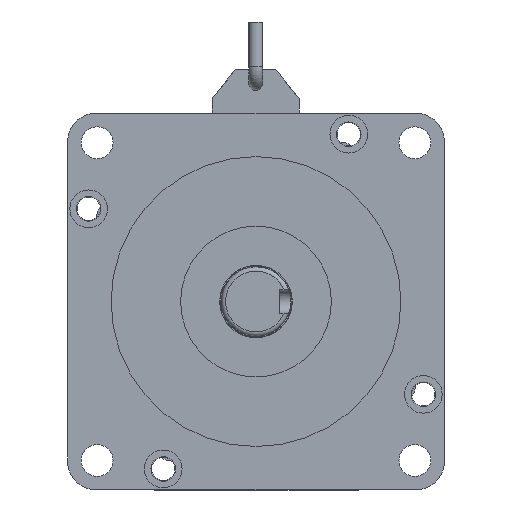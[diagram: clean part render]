
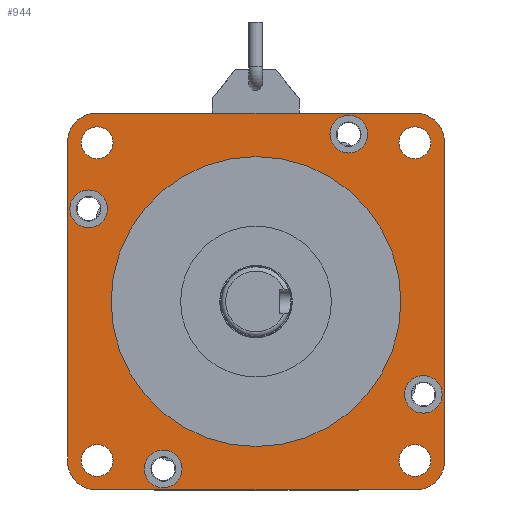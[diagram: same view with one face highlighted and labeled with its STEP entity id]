
A CAD part, front view. The second image highlights one B-rep face of the part: STEP entity #944.
In plain terms, the highlighted planar face has unit normal (0, -1, 0).
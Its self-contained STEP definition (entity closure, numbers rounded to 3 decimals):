
#944=ADVANCED_FACE('',(#1545,#1546,#1547,#1548,#1549,#1550,#1551,#1552,
#1553,#1554),#1260,.T.);
#1260=PLANE('',#8769);
#1545=FACE_BOUND('',#2155,.T.);
#1546=FACE_BOUND('',#2156,.T.);
#1547=FACE_BOUND('',#2157,.T.);
#1548=FACE_BOUND('',#2158,.T.);
#1549=FACE_BOUND('',#2159,.T.);
#1550=FACE_BOUND('',#2160,.T.);
#1551=FACE_BOUND('',#2161,.T.);
#1552=FACE_BOUND('',#2162,.T.);
#1553=FACE_BOUND('',#2163,.T.);
#1554=FACE_BOUND('',#2164,.T.);
#2155=EDGE_LOOP('',(#4236));
#2156=EDGE_LOOP('',(#4237));
#2157=EDGE_LOOP('',(#4238));
#2158=EDGE_LOOP('',(#4239));
#2159=EDGE_LOOP('',(#4240));
#2160=EDGE_LOOP('',(#4241));
#2161=EDGE_LOOP('',(#4242));
#2162=EDGE_LOOP('',(#4243));
#2163=EDGE_LOOP('',(#4244));
#2164=EDGE_LOOP('',(#4245,#4246,#4247,#4248,#4249,#4250,#4251,#4252));
#4236=ORIENTED_EDGE('',*,*,#6183,.T.);
#4237=ORIENTED_EDGE('',*,*,#6181,.T.);
#4238=ORIENTED_EDGE('',*,*,#6179,.T.);
#4239=ORIENTED_EDGE('',*,*,#6177,.T.);
#4240=ORIENTED_EDGE('',*,*,#6168,.T.);
#4241=ORIENTED_EDGE('',*,*,#6166,.T.);
#4242=ORIENTED_EDGE('',*,*,#6164,.T.);
#4243=ORIENTED_EDGE('',*,*,#6170,.T.);
#4244=ORIENTED_EDGE('',*,*,#6186,.T.);
#4245=ORIENTED_EDGE('',*,*,#6148,.F.);
#4246=ORIENTED_EDGE('',*,*,#6157,.T.);
#4247=ORIENTED_EDGE('',*,*,#6155,.F.);
#4248=ORIENTED_EDGE('',*,*,#6163,.T.);
#4249=ORIENTED_EDGE('',*,*,#6134,.F.);
#4250=ORIENTED_EDGE('',*,*,#6161,.T.);
#4251=ORIENTED_EDGE('',*,*,#6141,.F.);
#4252=ORIENTED_EDGE('',*,*,#6159,.T.);
#5072=VERTEX_POINT('',#13294);
#5077=VERTEX_POINT('',#13304);
#5078=VERTEX_POINT('',#13308);
#5083=VERTEX_POINT('',#13318);
#5084=VERTEX_POINT('',#13322);
#5089=VERTEX_POINT('',#13332);
#5090=VERTEX_POINT('',#13336);
#5095=VERTEX_POINT('',#13346);
#5096=VERTEX_POINT('',#13362);
#5098=VERTEX_POINT('',#13367);
#5100=VERTEX_POINT('',#13372);
#5102=VERTEX_POINT('',#13377);
#5109=VERTEX_POINT('',#13396);
#5111=VERTEX_POINT('',#13401);
#5113=VERTEX_POINT('',#13406);
#5115=VERTEX_POINT('',#13411);
#5118=VERTEX_POINT('',#13420);
#6134=EDGE_CURVE('',#5077,#5072,#7279,.T.);
#6141=EDGE_CURVE('',#5083,#5078,#7286,.T.);
#6148=EDGE_CURVE('',#5089,#5084,#7293,.T.);
#6155=EDGE_CURVE('',#5095,#5090,#7300,.T.);
#6157=EDGE_CURVE('',#5089,#5090,#6391,.T.);
#6159=EDGE_CURVE('',#5083,#5084,#6393,.T.);
#6161=EDGE_CURVE('',#5077,#5078,#6395,.T.);
#6163=EDGE_CURVE('',#5095,#5072,#6397,.T.);
#6164=EDGE_CURVE('',#5096,#5096,#6398,.T.);
#6166=EDGE_CURVE('',#5098,#5098,#6400,.T.);
#6168=EDGE_CURVE('',#5100,#5100,#6402,.T.);
#6170=EDGE_CURVE('',#5102,#5102,#6404,.T.);
#6177=EDGE_CURVE('',#5109,#5109,#6411,.T.);
#6179=EDGE_CURVE('',#5111,#5111,#6413,.T.);
#6181=EDGE_CURVE('',#5113,#5113,#6415,.T.);
#6183=EDGE_CURVE('',#5115,#5115,#6417,.T.);
#6186=EDGE_CURVE('',#5118,#5118,#6420,.T.);
#6391=CIRCLE('',#8720,10.);
#6393=CIRCLE('',#8723,10.);
#6395=CIRCLE('',#8726,10.);
#6397=CIRCLE('',#8729,10.);
#6398=CIRCLE('',#8731,5.5);
#6400=CIRCLE('',#8734,5.5);
#6402=CIRCLE('',#8737,5.5);
#6404=CIRCLE('',#8740,5.5);
#6411=CIRCLE('',#8752,6.5);
#6413=CIRCLE('',#8755,6.5);
#6415=CIRCLE('',#8758,6.5);
#6417=CIRCLE('',#8761,6.5);
#6420=CIRCLE('',#8767,50.);
#7279=LINE('',#13305,#8142);
#7286=LINE('',#13319,#8149);
#7293=LINE('',#13333,#8156);
#7300=LINE('',#13347,#8163);
#8142=VECTOR('',#10690,1.);
#8149=VECTOR('',#10699,1.);
#8156=VECTOR('',#10708,1.);
#8163=VECTOR('',#10717,1.);
#8720=AXIS2_PLACEMENT_3D('',#13350,#10722,#10723);
#8723=AXIS2_PLACEMENT_3D('',#13353,#10728,#10729);
#8726=AXIS2_PLACEMENT_3D('',#13356,#10734,#10735);
#8729=AXIS2_PLACEMENT_3D('',#13359,#10740,#10741);
#8731=AXIS2_PLACEMENT_3D('',#13361,#10744,#10745);
#8734=AXIS2_PLACEMENT_3D('',#13366,#10750,#10751);
#8737=AXIS2_PLACEMENT_3D('',#13371,#10756,#10757);
#8740=AXIS2_PLACEMENT_3D('',#13376,#10762,#10763);
#8752=AXIS2_PLACEMENT_3D('',#13395,#10786,#10787);
#8755=AXIS2_PLACEMENT_3D('',#13400,#10792,#10793);
#8758=AXIS2_PLACEMENT_3D('',#13405,#10798,#10799);
#8761=AXIS2_PLACEMENT_3D('',#13410,#10804,#10805);
#8767=AXIS2_PLACEMENT_3D('',#13419,#10816,#10817);
#8769=AXIS2_PLACEMENT_3D('',#13422,#10820,#10821);
#10690=DIRECTION('',(0.,0.,1.));
#10699=DIRECTION('',(-1.,0.,0.));
#10708=DIRECTION('',(0.,0.,-1.));
#10717=DIRECTION('',(1.,0.,0.));
#10722=DIRECTION('',(0.,-1.,0.));
#10723=DIRECTION('',(-1.,0.,0.));
#10728=DIRECTION('',(0.,-1.,0.));
#10729=DIRECTION('',(-1.,0.,0.));
#10734=DIRECTION('',(0.,-1.,0.));
#10735=DIRECTION('',(-1.,0.,0.));
#10740=DIRECTION('',(0.,-1.,0.));
#10741=DIRECTION('',(-1.,0.,0.));
#10744=DIRECTION('',(0.,1.,0.));
#10745=DIRECTION('',(0.,0.,1.));
#10750=DIRECTION('',(0.,1.,0.));
#10751=DIRECTION('',(-1.,0.,0.));
#10756=DIRECTION('',(0.,1.,0.));
#10757=DIRECTION('',(0.,0.,-1.));
#10762=DIRECTION('',(0.,1.,0.));
#10763=DIRECTION('',(1.,0.,0.));
#10786=DIRECTION('',(0.,1.,0.));
#10787=DIRECTION('',(0.,0.,1.));
#10792=DIRECTION('',(0.,1.,0.));
#10793=DIRECTION('',(-1.,0.,0.));
#10798=DIRECTION('',(0.,1.,0.));
#10799=DIRECTION('',(0.,0.,-1.));
#10804=DIRECTION('',(0.,1.,0.));
#10805=DIRECTION('',(1.,0.,0.));
#10816=DIRECTION('',(0.,1.,0.));
#10817=DIRECTION('',(-1.,0.,0.));
#10820=DIRECTION('',(0.,-1.,0.));
#10821=DIRECTION('',(-1.,0.,0.));
#13294=CARTESIAN_POINT('',(478.536,-994.118,102.721));
#13304=CARTESIAN_POINT('',(478.536,-994.118,-7.279));
#13305=CARTESIAN_POINT('',(478.536,-994.118,47.721));
#13308=CARTESIAN_POINT('',(488.536,-994.118,-17.279));
#13318=CARTESIAN_POINT('',(598.536,-994.118,-17.279));
#13319=CARTESIAN_POINT('',(543.536,-994.118,-17.279));
#13322=CARTESIAN_POINT('',(608.536,-994.118,-7.279));
#13332=CARTESIAN_POINT('',(608.536,-994.118,102.721));
#13333=CARTESIAN_POINT('',(608.536,-994.118,47.721));
#13336=CARTESIAN_POINT('',(598.536,-994.118,112.721));
#13346=CARTESIAN_POINT('',(488.536,-994.118,112.721));
#13347=CARTESIAN_POINT('',(543.536,-994.118,112.721));
#13350=CARTESIAN_POINT('',(598.536,-994.118,102.721));
#13353=CARTESIAN_POINT('',(598.536,-994.118,-7.279));
#13356=CARTESIAN_POINT('',(488.536,-994.118,-7.279));
#13359=CARTESIAN_POINT('',(488.536,-994.118,102.721));
#13361=CARTESIAN_POINT('',(598.337,-994.118,102.522));
#13362=CARTESIAN_POINT('',(598.337,-994.118,108.022));
#13366=CARTESIAN_POINT('',(488.736,-994.118,102.522));
#13367=CARTESIAN_POINT('',(483.236,-994.118,102.522));
#13371=CARTESIAN_POINT('',(488.736,-994.118,-7.079));
#13372=CARTESIAN_POINT('',(488.736,-994.118,-12.579));
#13376=CARTESIAN_POINT('',(598.337,-994.118,-7.079));
#13377=CARTESIAN_POINT('',(603.837,-994.118,-7.079));
#13395=CARTESIAN_POINT('',(601.261,-994.118,15.724));
#13396=CARTESIAN_POINT('',(601.261,-994.118,22.224));
#13400=CARTESIAN_POINT('',(575.534,-994.118,105.446));
#13401=CARTESIAN_POINT('',(569.034,-994.118,105.446));
#13405=CARTESIAN_POINT('',(485.811,-994.118,79.719));
#13406=CARTESIAN_POINT('',(485.811,-994.118,73.219));
#13410=CARTESIAN_POINT('',(511.539,-994.118,-10.004));
#13411=CARTESIAN_POINT('',(518.039,-994.118,-10.004));
#13419=CARTESIAN_POINT('',(543.536,-994.118,47.721));
#13420=CARTESIAN_POINT('',(493.536,-994.118,47.721));
#13422=CARTESIAN_POINT('',(543.536,-994.118,47.721));
